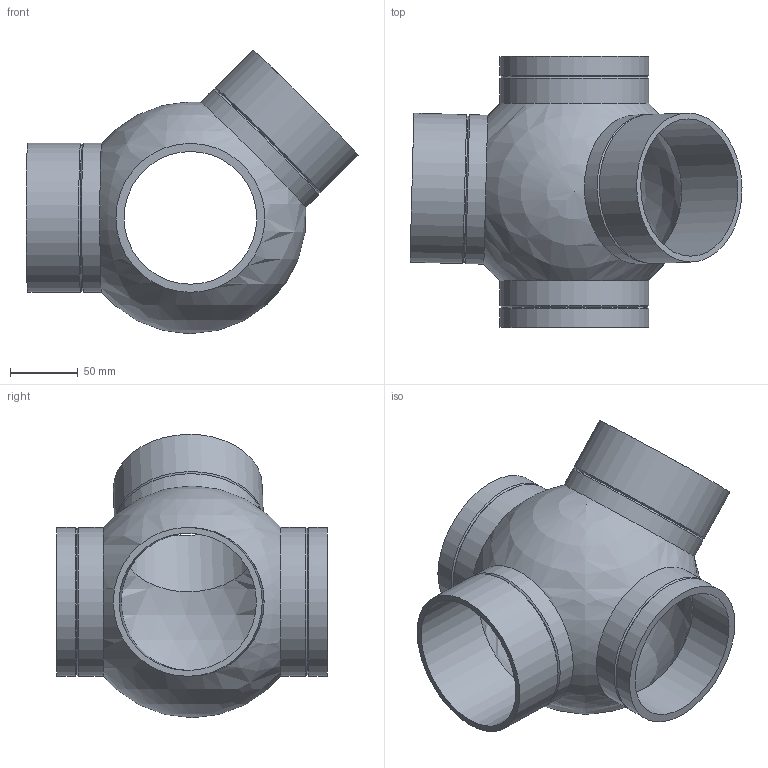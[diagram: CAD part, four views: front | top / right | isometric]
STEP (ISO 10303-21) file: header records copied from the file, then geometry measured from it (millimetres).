
FILE_DESCRIPTION(/* description */ (''),/* implementation_level */ '2;1');
FILE_NAME(/* name */ 'Z:\Geberit\Export\NewStep\367385.stp',/* time_stamp */ '2014-04-02T07:56:57+02:00',/* author */ ('nelson'),/* organization */ (''),/* preprocessor_version */ 'ST-DEVELOPER v15.2',/* originating_system */ 'Autodesk Inventor 2014',/* authorisation */ '');
FILE_SCHEMA (('AUTOMOTIVE_DESIGN { 1 0 10303 214 3 1 1 }'));
Length unit declared in the file: millimetre
Products named in the file (1): 367385
Bounding box: 245.11 x 200 x 209.21 mm (x, y, z)
Volume: 580023.9 mm3; surface area: 223131.4 mm2
Topology: 1 solids, 1 shells, 26 faces, 62 edges, 40 vertices
Faces by surface type: cylinder 12, cone 8, plane 4, sphere 2
Full cylindrical faces by diameter (mm): 98 x2, 101.4 x2, 110 x8
Entity records: 603 total; most frequent: DIRECTION 110, CARTESIAN_POINT 83, EDGE_LOOP 56, ORIENTED_EDGE 56, AXIS2_PLACEMENT_3D 55, FACE_BOUND 36, CIRCLE 28, VERTEX_POINT 28
